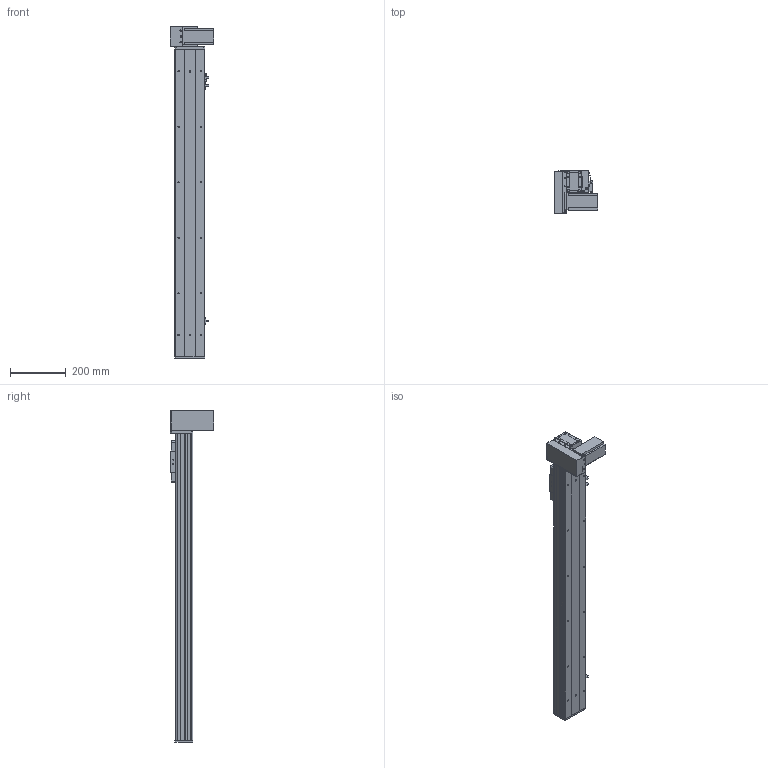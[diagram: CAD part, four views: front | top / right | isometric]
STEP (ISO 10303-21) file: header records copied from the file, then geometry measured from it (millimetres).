
FILE_DESCRIPTION (( 'STEP AP203' ), '1' );
FILE_NAME ('Y10CB-D90-S850-BM-P400W.STEP', '2020-02-16T08:57:50', ( '微软用户' ), ( '微软中国' ), 'SwSTEP 2.0', 'SolidWorks 2017', '' );
FILE_SCHEMA (( 'CONFIG_CONTROL_DESIGN' ));
Length unit declared in the file: millimetre
Products named in the file (18): Y10CB-D90-S850-BM-P400W; Y10C---詩湍揤啣; 0Cb-俋欶---; 10CB9-掛极; Y10B-々湍喘謫眊楊擘啣--; 10CB-耜裔; 0B-萇儂楊擘啣; Y135C-陔俋离換覜結え-; san松下电机400不带刹车----; Y100-135俋离換覜ん--; 0B-源倛裔啣; Y10B--々湍喘謫眊--666; 0B-埴倛裔啣; 00B-俋欶BM--; 10CB-詩湍-; Y10B-耜蚾蟀諉啣----; Y10CB- 掛极耜裔啣-毀---; 0CB-雄赽釱---
Assembly tree (21 placements, depth 2):
  Y10CB-D90-S850-BM-P400W
    0CB-雄赽釱---
    0Cb-俋欶---
    Y10B-々湍喘謫眊楊擘啣--
    0B-萇儂楊擘啣
    san松下电机400不带刹车----
    0B-源倛裔啣
    0B-埴倛裔啣
    10CB-詩湍-
    Y10CB- 掛极耜裔啣-毀---  x2
    Y10C---詩湍揤啣  x2
    10CB9-掛极
    10CB-耜裔
    Y135C-陔俋离換覜結え-
    Y100-135俋离換覜ん--  x3
    Y10B--々湍喘謫眊--666
    00B-俋欶BM--
    Y10B-耜蚾蟀諉啣----
Bounding box: 157 x 156 x 1196 mm (x, y, z)
Volume: 2874222.7 mm3; surface area: 1279450.4 mm2
Topology: 21 solids, 21 shells, 978 faces, 2603 edges, 1706 vertices
Faces by surface type: cylinder 479, plane 475, cone 24
Entity records: 30412 total; most frequent: CARTESIAN_POINT 5321, DIRECTION 4930, ORIENTED_EDGE 4676, EDGE_CURVE 2338, AXIS2_PLACEMENT_3D 1765, VERTEX_POINT 1532, LINE 1400, VECTOR 1400
